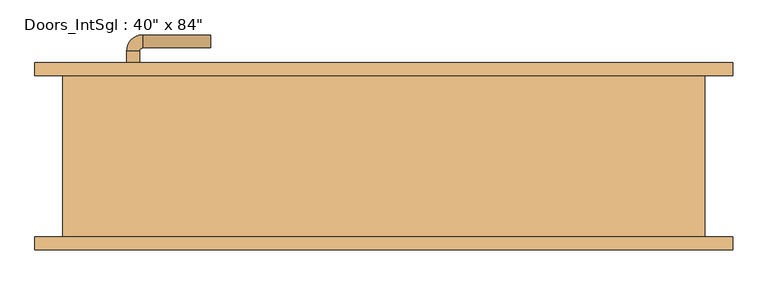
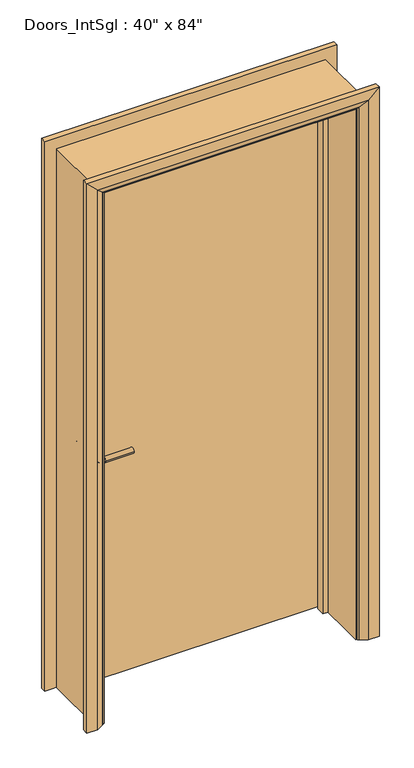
"""IFC4 building model written with IfcOpenShell, lengths in millimetres: door geometry."""

from ifc_helpers import new_model, si_unit, point, frame, frame_2d, origin, place, context, project, spatial, polyline, circle_curve, ellipse_curve, trimmed, segment, composite_curve, outline, extrude, faceted_brep, source, transform, mapped, element, save
from ifc_brep_helpers import plane_surface, cylinder_surface, revolved_surface, advanced_brep


def door_2b78cd70(model_context):
    return source(origin(), model_context, "Body", "SolidModel", [
        advanced_brep(
        [(-398.0, 79.0, 900.0), (-378.0, 79.0, 900.0), (-378.0, 49.0, 900.0), (-398.0, 49.0, 900.0), (-373.0, 44.0, 900.0), (-373.0, 24.0, 900.0), (-268.0, 24.0, 900.0), (-268.0, 44.0, 900.0)],
        [
            (0, 1, circle_curve(frame((-388.0, 79.0, 900.0), z_axis=(0.0, 1.0, 0.0), x_axis=(1.0, 0.0, 0.0)), 10.0)),
            (1, 0, circle_curve(frame((-388.0, 79.0, 900.0), z_axis=(0.0, 1.0, 0.0), x_axis=(1.0, 0.0, 0.0)), 10.0)),
            (1, 2),
            (2, 3, circle_curve(frame((-388.0, 49.0, 900.0), z_axis=(0.0, 1.0, 0.0), x_axis=(1.0, 0.0, 0.0)), 10.0)),
            (3, 0),
            (3, 2, circle_curve(frame((-388.0, 49.0, 900.0), z_axis=(0.0, 1.0, 0.0), x_axis=(1.0, 0.0, 0.0)), 10.0)),
            (4, 5, circle_curve(frame((-373.0, 34.0, 900.0), z_axis=(-1.0, 0.0, 0.0), x_axis=(0.0, 1.0, 0.0)), 10.0)),
            (5, 3, circle_curve(frame((-373.0, 49.0, 900.0), z_axis=(0.0, 0.0, -1.0), x_axis=(-1.0, 0.0, 0.0)), 25.0)),
            (2, 4, circle_curve(frame((-373.0, 49.0, 900.0), z_axis=(0.0, 0.0, 1.0), x_axis=(-1.0, 0.0, 0.0)), 5.0)),
            (5, 4, circle_curve(frame((-373.0, 34.0, 900.0), z_axis=(-1.0, 0.0, 0.0), x_axis=(0.0, 1.0, 0.0)), 10.0)),
            (6, 7, circle_curve(frame((-268.0, 34.0, 900.0), z_axis=(1.0, 0.0, 0.0), x_axis=(0.0, 1.0, 0.0)), 10.0)),
            (7, 6, circle_curve(frame((-268.0, 34.0, 900.0), z_axis=(1.0, 0.0, 0.0), x_axis=(0.0, 1.0, 0.0)), 10.0)),
            (4, 7),
            (6, 5),
        ],
        [
            plane_surface(frame((-388.0, 79.0, 900.0), z_axis=(0.0, 1.0, 0.0), x_axis=(0.0, 0.0, 1.0))),
            cylinder_surface(frame((-388.0, 79.0, 900.0), z_axis=(0.0, 1.0, 0.0), x_axis=(1.0, 0.0, 0.0)), 10.0),
            revolved_surface(trimmed(ellipse_curve(frame((-388.0, 49.0, 900.0), z_axis=(0.0, -1.0, 0.0), x_axis=(1.0, 0.0, 0.0)), 10.0, 10.0), [point((-398.0, 49.0, 900.0))], [point((-378.0, 49.0, 900.0))], True, "CARTESIAN"), (-373.0, 49.0, 900.0), (0.0, 0.0, -1.0)),
            revolved_surface(trimmed(ellipse_curve(frame((-388.0, 49.0, 900.0), z_axis=(0.0, -1.0, 0.0), x_axis=(1.0, 0.0, 0.0)), 10.0, 10.0), [point((-378.0, 49.0, 900.0))], [point((-398.0, 49.0, 900.0))], True, "CARTESIAN"), (-373.0, 49.0, 900.0), (0.0, 0.0, -1.0)),
            plane_surface(frame((-268.0, 34.0, 900.0), z_axis=(1.0, 0.0, 0.0), x_axis=(0.0, 0.0, 1.0))),
            cylinder_surface(frame((-373.0, 34.0, 900.0), z_axis=(-1.0, 0.0, 0.0), x_axis=(0.0, 1.0, 0.0)), 10.0),
        ],
        [
            (0, [[1, 2]]),
            (1, [[3, 4, 5, -2]]),
            (1, [[-5, 6, -3, -1]]),
            (2, [[7, 8, -4, 9]]),
            (3, [[10, -9, -6, -8]]),
            (4, [[11, 12]]),
            (5, [[13, -11, 14, -7]]),
            (5, [[-14, -12, -13, -10]]),
        ],
    ),
        extrude(outline(composite_curve([segment(trimmed(circle_curve(frame_2d((900.0, -390.5)), 30.0), [point((900.0, -420.5))], [point((900.0, -360.5))], False, "CARTESIAN"), True, "CONTINUOUS"), segment(trimmed(circle_curve(frame_2d((900.0, -390.5)), 30.0), [point((900.0, -360.5))], [point((900.0, -420.5))], False, "CARTESIAN"), True, "CONTINUOUS")], self_intersect=False)), frame((0.0, 79.0, 0.0), z_axis=(0.0, 1.0, 0.0), x_axis=(0.0, 0.0, 1.0)), (0.0, 0.0, 1.0), 8.0),
        advanced_brep(
        [(-398.0, 133.0, 900.0), (-378.0, 133.0, 900.0), (-398.0, 163.0, 900.0), (-378.0, 163.0, 900.0), (-373.0, 168.0, 900.0), (-373.0, 188.0, 900.0), (-268.0, 188.0, 900.0), (-268.0, 168.0, 900.0)],
        [
            (0, 1, circle_curve(frame((-388.0, 133.0, 900.0), z_axis=(0.0, -1.0, 0.0), x_axis=(1.0, 0.0, 0.0)), 10.0)),
            (1, 0, circle_curve(frame((-388.0, 133.0, 900.0), z_axis=(0.0, -1.0, 0.0), x_axis=(1.0, 0.0, 0.0)), 10.0)),
            (0, 2),
            (2, 3, circle_curve(frame((-388.0, 163.0, 900.0), z_axis=(0.0, -1.0, 0.0), x_axis=(1.0, 0.0, 0.0)), 10.0)),
            (3, 1),
            (3, 2, circle_curve(frame((-388.0, 163.0, 900.0), z_axis=(0.0, -1.0, 0.0), x_axis=(1.0, 0.0, 0.0)), 10.0)),
            (4, 3, circle_curve(frame((-373.0, 163.0, 900.0), z_axis=(0.0, 0.0, 1.0), x_axis=(-1.0, 0.0, 0.0)), 5.0)),
            (2, 5, circle_curve(frame((-373.0, 163.0, 900.0), z_axis=(0.0, 0.0, -1.0), x_axis=(-1.0, 0.0, 0.0)), 25.0)),
            (5, 4, circle_curve(frame((-373.0, 178.0, 900.0), z_axis=(-1.0, 0.0, 0.0), x_axis=(0.0, -1.0, 0.0)), 10.0)),
            (4, 5, circle_curve(frame((-373.0, 178.0, 900.0), z_axis=(-1.0, 0.0, 0.0), x_axis=(0.0, -1.0, 0.0)), 10.0)),
            (6, 7, circle_curve(frame((-268.0, 178.0, 900.0), z_axis=(1.0, 0.0, 0.0), x_axis=(0.0, -1.0, 0.0)), 10.0)),
            (7, 6, circle_curve(frame((-268.0, 178.0, 900.0), z_axis=(1.0, 0.0, 0.0), x_axis=(0.0, -1.0, 0.0)), 10.0)),
            (5, 6),
            (7, 4),
        ],
        [
            plane_surface(frame((-388.0, 133.0, 900.0), z_axis=(0.0, -1.0, 0.0), x_axis=(0.0, 0.0, 1.0))),
            cylinder_surface(frame((-388.0, 133.0, 900.0), z_axis=(0.0, -1.0, 0.0), x_axis=(1.0, 0.0, 0.0)), 10.0),
            revolved_surface(trimmed(ellipse_curve(frame((-388.0, 163.0, 900.0), z_axis=(0.0, -1.0, 0.0), x_axis=(1.0, 0.0, 0.0)), 10.0, 10.0), [point((-398.0, 163.0, 900.0))], [point((-378.0, 163.0, 900.0))], True, "CARTESIAN"), (-373.0, 163.0, 900.0), (0.0, 0.0, -1.0)),
            revolved_surface(trimmed(ellipse_curve(frame((-388.0, 163.0, 900.0), z_axis=(0.0, -1.0, 0.0), x_axis=(1.0, 0.0, 0.0)), 10.0, 10.0), [point((-378.0, 163.0, 900.0))], [point((-398.0, 163.0, 900.0))], True, "CARTESIAN"), (-373.0, 163.0, 900.0), (0.0, 0.0, -1.0)),
            plane_surface(frame((-268.0, 178.0, 900.0), z_axis=(1.0, 0.0, 0.0), x_axis=(0.0, 0.0, 1.0))),
            cylinder_surface(frame((-373.0, 178.0, 900.0), z_axis=(-1.0, 0.0, 0.0), x_axis=(0.0, -1.0, 0.0)), 10.0),
        ],
        [
            (0, [[1, 2]]),
            (1, [[-1, 3, 4, 5]]),
            (1, [[-2, -5, 6, -3]]),
            (2, [[7, -4, 8, 9]]),
            (3, [[-8, -6, -7, 10]]),
            (4, [[11, 12]]),
            (5, [[-9, 13, -12, 14]]),
            (5, [[-10, -14, -11, -13]]),
        ],
    ),
        extrude(outline(composite_curve([segment(trimmed(circle_curve(frame_2d((900.0, -390.5)), 30.0), [point((900.0, -420.5))], [point((900.0, -360.5))], False, "CARTESIAN"), True, "CONTINUOUS"), segment(trimmed(circle_curve(frame_2d((900.0, -390.5)), 30.0), [point((900.0, -360.5))], [point((900.0, -420.5))], False, "CARTESIAN"), True, "CONTINUOUS")], self_intersect=False)), frame((0.0, 125.0, 0.0), z_axis=(0.0, 1.0, 0.0), x_axis=(0.0, 0.0, 1.0)), (0.0, 0.0, 1.0), 8.0),
        extrude(outline(polyline([(463.0, 87.0), (-463.0, 87.0), (-463.0, 125.0), (463.0, 125.0), (463.0, 87.0)])), frame((0.0, 0.0, 8.0), z_axis=(0.0, 0.0, 1.0), x_axis=(1.0, 0.0, 0.0)), (0.0, 0.0, 1.0), 2060.0),
        advanced_brep(
        [(540.0, 145.0, 0.0), (540.0, 125.0, 0.0), (470.0, 125.0, 0.0), (474.0, 131.0, 0.0), (500.0, 145.0, 0.0), (540.0, 145.0, 2145.0), (540.0, 125.0, 2145.0), (-540.0, 125.0, 2145.0), (-540.0, 125.0, 0.0), (-470.0, 125.0, 0.0), (-470.0, 125.0, 2075.0), (470.0, 125.0, 2075.0), (474.0, 131.0, 2079.0), (500.0, 145.0, 2105.0), (-500.0, 145.0, 2105.0), (-500.0, 145.0, 0.0), (-540.0, 145.0, 0.0), (-540.0, 145.0, 2145.0), (-474.0, 131.0, 2079.0), (-474.0, 131.0, 0.0)],
        [
            (0, 1),
            (1, 2),
            (2, 3, circle_curve(frame((478.0, 124.0, 0.0), z_axis=(0.0, 0.0, -1.0), x_axis=(1.0, 0.0, 0.0)), 8.0622577)),
            (3, 4),
            (4, 0),
            (0, 5),
            (5, 6),
            (6, 1),
            (6, 7),
            (7, 8),
            (8, 9),
            (9, 10),
            (10, 11),
            (11, 2),
            (11, 12, ellipse_curve(frame((478.0, 124.0, 2083.0), z_axis=(0.7071067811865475, 0.0, -0.7071067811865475), x_axis=(-0.7071067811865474, 0.0, -0.7071067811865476)), 11.4017543, 8.0622577)),
            (12, 3),
            (12, 13),
            (13, 4),
            (13, 14),
            (14, 15),
            (15, 16),
            (16, 17),
            (17, 5),
            (17, 7),
            (10, 18, ellipse_curve(frame((-478.0, 124.0, 2083.0), z_axis=(0.7071067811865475, 0.0, 0.7071067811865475), x_axis=(0.7071067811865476, 0.0, -0.7071067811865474)), 11.4017543, 8.0622577)),
            (18, 12),
            (18, 14),
            (15, 19),
            (19, 9, circle_curve(frame((-478.0, 124.0, 0.0), z_axis=(0.0, 0.0, -1.0), x_axis=(-1.0, 0.0, 0.0)), 8.0622577)),
            (8, 16),
            (19, 18),
        ],
        [
            plane_surface(frame((470.0, 125.0, 0.0), z_axis=(0.0, 0.0, -1.0), x_axis=(0.0, -1.0, 0.0))),
            plane_surface(frame((540.0, 145.0, 0.0), z_axis=(1.0, 0.0, 0.0), x_axis=(0.0, 0.0, 1.0))),
            plane_surface(frame((540.0, 125.0, 0.0), z_axis=(0.0, -1.0, 0.0), x_axis=(0.0, 0.0, 1.0))),
            cylinder_surface(frame((478.0, 124.0, 0.0), z_axis=(0.0, 0.0, -1.0), x_axis=(1.0, 0.0, 0.0)), 8.0622577),
            plane_surface(frame((474.0, 131.0, 0.0), z_axis=(-0.4740998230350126, 0.880471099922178, 0.0), x_axis=(0.0, 0.0, 1.0))),
            plane_surface(frame((500.0, 145.0, 0.0), z_axis=(0.0, 1.0, 0.0), x_axis=(0.0, 0.0, 1.0))),
            plane_surface(frame((540.0, 145.0, 2145.0), z_axis=(0.0, 0.0, 1.0), x_axis=(-1.0, 0.0, 0.0))),
            cylinder_surface(frame((470.0, 124.0, 2083.0), z_axis=(1.0, 0.0, 0.0), x_axis=(0.0, 0.0, 1.0)), 8.0622577),
            plane_surface(frame((474.0, 131.0, 2079.0), z_axis=(0.0, 0.8804710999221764, -0.4740998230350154), x_axis=(-1.0, 0.0, 0.0))),
            plane_surface(frame((-470.0, 125.0, 0.0), z_axis=(0.0, 0.0, -1.0), x_axis=(0.0, -1.0, 0.0))),
            plane_surface(frame((-540.0, 145.0, 2145.0), z_axis=(-1.0, 0.0, 0.0), x_axis=(0.0, 0.0, -1.0))),
            cylinder_surface(frame((-478.0, 124.0, 2075.0), z_axis=(0.0, 0.0, 1.0), x_axis=(-1.0, 0.0, 0.0)), 8.0622577),
            plane_surface(frame((-474.0, 131.0, 2079.0), z_axis=(0.47409982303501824, 0.8804710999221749, 0.0), x_axis=(0.0, 0.0, -1.0))),
        ],
        [
            (0, [[1, 2, 3, 4, 5]]),
            (1, [[-1, 6, 7, 8]]),
            (2, [[-2, -8, 9, 10, 11, 12, 13, 14]]),
            (3, [[-3, -14, 15, 16]]),
            (4, [[-4, -16, 17, 18]]),
            (5, [[-5, -18, 19, 20, 21, 22, 23, -6]]),
            (6, [[-7, -23, 24, -9]]),
            (7, [[-15, -13, 25, 26]]),
            (8, [[-17, -26, 27, -19]]),
            (9, [[-21, 28, 29, -11, 30]]),
            (10, [[-24, -22, -30, -10]]),
            (11, [[-25, -12, -29, 31]]),
            (12, [[-27, -31, -28, -20]]),
        ],
    ),
        extrude(outline(polyline([(0.0, -465.0), (0.0, -446.0), (2051.0, -446.0), (2051.0, 446.0), (0.0, 446.0), (0.0, 465.0), (2070.0, 465.0), (2070.0, -465.0), (0.0, -465.0)])), frame((0.0, 53.0, 0.0), z_axis=(0.0, 1.0, 0.0), x_axis=(0.0, 0.0, 1.0)), (0.0, 0.0, 1.0), 32.0),
        advanced_brep(
        [(-540.0, -145.0, 0.0), (-540.0, -125.0, 0.0), (-470.0, -125.0, 0.0), (-474.0, -131.0, 0.0), (-500.0, -145.0, 0.0), (-540.0, -145.0, 2145.0), (-540.0, -125.0, 2145.0), (-470.0, -125.0, 2075.0), (-474.0, -131.0, 2079.0), (-500.0, -145.0, 2105.0), (540.0, -145.0, 2145.0), (540.0, -125.0, 2145.0), (470.0, -125.0, 2075.0), (474.0, -131.0, 2079.0), (500.0, -145.0, 2105.0), (540.0, -145.0, 0.0), (500.0, -145.0, 0.0), (474.0, -131.0, 0.0), (470.0, -125.0, 0.0), (540.0, -125.0, 0.0)],
        [
            (0, 1),
            (1, 2),
            (2, 3, circle_curve(frame((-478.0, -124.0, 0.0), z_axis=(0.0, 0.0, -1.0), x_axis=(-1.0, 0.0, 0.0)), 8.0622577)),
            (3, 4),
            (4, 0),
            (0, 5),
            (5, 6),
            (6, 1),
            (6, 7),
            (7, 2),
            (7, 8, ellipse_curve(frame((-478.0, -124.0, 2083.0), z_axis=(-0.7071067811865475, 0.0, -0.7071067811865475), x_axis=(0.7071067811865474, 0.0, -0.7071067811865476)), 11.4017543, 8.0622577)),
            (8, 3),
            (8, 9),
            (9, 4),
            (9, 5),
            (5, 10),
            (10, 11),
            (11, 6),
            (11, 12),
            (12, 7),
            (12, 13, ellipse_curve(frame((478.0, -124.0, 2083.0), z_axis=(-0.7071067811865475, 0.0, 0.7071067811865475), x_axis=(-0.7071067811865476, 0.0, -0.7071067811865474)), 11.4017543, 8.0622577)),
            (13, 8),
            (13, 14),
            (14, 9),
            (14, 10),
            (15, 16),
            (16, 17),
            (17, 18, circle_curve(frame((478.0, -124.0, 0.0), z_axis=(0.0, 0.0, -1.0), x_axis=(1.0, 0.0, 0.0)), 8.0622577)),
            (18, 19),
            (19, 15),
            (10, 15),
            (19, 11),
            (18, 12),
            (17, 13),
            (16, 14),
        ],
        [
            plane_surface(frame((-470.0, -197.8010989, 0.0), z_axis=(0.0, 0.0, -1.0), x_axis=(1.0, 0.0, 0.0))),
            plane_surface(frame((-540.0, -145.0, 0.0), z_axis=(-1.0, 0.0, 0.0), x_axis=(0.0, 0.0, 1.0))),
            plane_surface(frame((-540.0, -125.0, 0.0), z_axis=(0.0, 1.0, 0.0), x_axis=(0.0, 0.0, 1.0))),
            cylinder_surface(frame((-478.0, -124.0, 0.0), z_axis=(0.0, 0.0, -1.0), x_axis=(-1.0, 0.0, 0.0)), 8.0622577),
            plane_surface(frame((-474.0, -131.0, 0.0), z_axis=(0.4740998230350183, -0.8804710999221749, 0.0), x_axis=(0.0, 0.0, 1.0))),
            plane_surface(frame((-500.0, -145.0, 0.0), z_axis=(0.0, -1.0, 0.0), x_axis=(0.0, 0.0, 1.0))),
            plane_surface(frame((-540.0, -145.0, 2145.0), z_axis=(0.0, 0.0, 1.0), x_axis=(1.0, 0.0, 0.0))),
            plane_surface(frame((-540.0, -125.0, 2145.0), z_axis=(0.0, 1.0, 0.0), x_axis=(1.0, 0.0, 0.0))),
            cylinder_surface(frame((-470.0, -124.0, 2083.0), z_axis=(-1.0, 0.0, 0.0), x_axis=(0.0, 0.0, 1.0)), 8.0622577),
            plane_surface(frame((-474.0, -131.0, 2079.0), z_axis=(0.0, -0.8804710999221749, -0.4740998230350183), x_axis=(1.0, 0.0, 0.0))),
            plane_surface(frame((-500.0, -145.0, 2105.0), z_axis=(0.0, -1.0, 0.0), x_axis=(1.0, 0.0, 0.0))),
            plane_surface(frame((470.0, -197.8010989, 0.0), z_axis=(0.0, 0.0, -1.0), x_axis=(-1.0, 0.0, 0.0))),
            plane_surface(frame((540.0, -145.0, 2145.0), z_axis=(1.0, 0.0, 0.0), x_axis=(0.0, 0.0, -1.0))),
            plane_surface(frame((540.0, -125.0, 2145.0), z_axis=(0.0, 1.0, 0.0), x_axis=(0.0, 0.0, -1.0))),
            cylinder_surface(frame((478.0, -124.0, 2075.0), z_axis=(0.0, 0.0, 1.0), x_axis=(1.0, 0.0, 0.0)), 8.0622577),
            plane_surface(frame((474.0, -131.0, 2079.0), z_axis=(-0.4740998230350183, -0.8804710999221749, 0.0), x_axis=(0.0, 0.0, -1.0))),
            plane_surface(frame((500.0, -145.0, 2105.0), z_axis=(0.0, -1.0, 0.0), x_axis=(0.0, 0.0, -1.0))),
        ],
        [
            (0, [[1, 2, 3, 4, 5]]),
            (1, [[-1, 6, 7, 8]]),
            (2, [[-2, -8, 9, 10]]),
            (3, [[-3, -10, 11, 12]]),
            (4, [[-4, -12, 13, 14]]),
            (5, [[-5, -14, 15, -6]]),
            (6, [[-7, 16, 17, 18]]),
            (7, [[-9, -18, 19, 20]]),
            (8, [[-11, -20, 21, 22]]),
            (9, [[-13, -22, 23, 24]]),
            (10, [[-15, -24, 25, -16]]),
            (11, [[26, 27, 28, 29, 30]]),
            (12, [[-17, 31, -30, 32]]),
            (13, [[-19, -32, -29, 33]]),
            (14, [[-21, -33, -28, 34]]),
            (15, [[-23, -34, -27, 35]]),
            (16, [[-25, -35, -26, -31]]),
        ],
    ),
        faceted_brep([(-465.0, 125.0, 0.0), (-465.0, -125.0, 0.0), (-497.0, -125.0, 0.0), (-497.0, 125.0, 0.0), (-465.0, 125.0, 2070.0), (-465.0, -125.0, 2070.0), (-497.0, -125.0, 2102.0), (-497.0, 125.0, 2102.0), (465.0, 125.0, 2070.0), (465.0, -125.0, 2070.0), (497.0, -125.0, 2102.0), (497.0, 125.0, 2102.0), (465.0, 125.0, 0.0), (497.0, 125.0, 0.0), (497.0, -125.0, 0.0), (465.0, -125.0, 0.0)], [[[0, 1, 2, 3]], [[1, 0, 4, 5]], [[2, 1, 5, 6]], [[3, 2, 6, 7]], [[0, 3, 7, 4]], [[5, 4, 8, 9]], [[6, 5, 9, 10]], [[7, 6, 10, 11]], [[4, 7, 11, 8]], [[12, 13, 14, 15]], [[9, 8, 12, 15]], [[10, 9, 15, 14]], [[11, 10, 14, 13]], [[8, 11, 13, 12]]]),
    ])


if __name__ == "__main__":
    model = new_model("IFC4")
    model_context = context("Model", 3, world=origin())
    ifc_project = project(units=[si_unit("LENGTHUNIT", "METRE", prefix="MILLI")], contexts=[model_context])
    site = spatial("IfcSite", under=ifc_project)
    building = spatial("IfcBuilding", under=site)
    placement = place(None, origin())
    door_shape = door_2b78cd70(model_context)
    element("IfcDoor", 1, ObjectType="Doors_IntSgl : 40\" x 84\"", at=placement, inside=building, context=model_context, shape_type="MappedRepresentation", body=[
        mapped(door_shape, transform((0.0, 0.0, 0.0), x_axis=(1.0, 0.0, 0.0), y_axis=(0.0, 1.0, 0.0), z_axis=(0.0, 0.0, 1.0))),
    ])
    save(model, "model.ifc")
